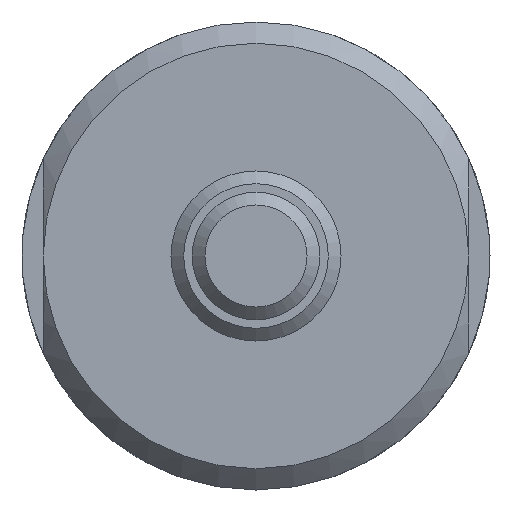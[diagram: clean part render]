
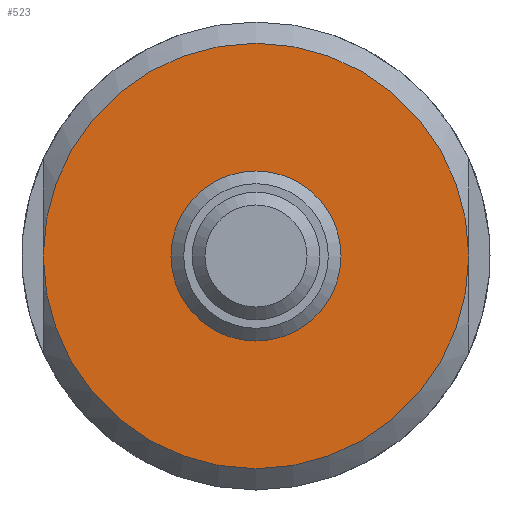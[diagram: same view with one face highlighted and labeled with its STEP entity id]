
A CAD part, left-side view. The second image highlights one B-rep face of the part: STEP entity #523.
In plain terms, the highlighted planar face has unit normal (-1, 0, 0).
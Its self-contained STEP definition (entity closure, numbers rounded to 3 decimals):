
#163=ORIENTED_EDGE('',*,*,#242,.T.);
#164=ORIENTED_EDGE('',*,*,#232,.F.);
#165=ORIENTED_EDGE('',*,*,#230,.F.);
#230=EDGE_CURVE('',#282,#280,#322,.T.);
#232=EDGE_CURVE('',#280,#282,#323,.T.);
#242=EDGE_CURVE('',#290,#290,#328,.T.);
#280=VERTEX_POINT('',#912);
#282=VERTEX_POINT('',#919);
#290=VERTEX_POINT('',#949);
#322=CIRCLE('',#613,5.);
#323=CIRCLE('',#615,5.);
#328=CIRCLE('',#622,2.);
#384=EDGE_LOOP('',(#163));
#385=EDGE_LOOP('',(#164,#165));
#454=FACE_BOUND('',#384,.T.);
#455=FACE_BOUND('',#385,.T.);
#488=PLANE('',#621);
#523=ADVANCED_FACE('',(#454,#455),#488,.F.);
#613=AXIS2_PLACEMENT_3D('',#920,#755,#756);
#615=AXIS2_PLACEMENT_3D('',#927,#759,#760);
#621=AXIS2_PLACEMENT_3D('',#947,#775,#776);
#622=AXIS2_PLACEMENT_3D('',#948,#777,#778);
#755=DIRECTION('',(1.,0.,0.));
#756=DIRECTION('',(0.,0.,-1.));
#759=DIRECTION('',(1.,0.,0.));
#760=DIRECTION('',(0.,0.,-1.));
#775=DIRECTION('',(1.,0.,0.));
#776=DIRECTION('',(0.,0.,-1.));
#777=DIRECTION('',(1.,0.,0.));
#778=DIRECTION('',(0.,0.,-1.));
#912=CARTESIAN_POINT('',(0.,-5.,0.));
#919=CARTESIAN_POINT('',(0.,5.,0.));
#920=CARTESIAN_POINT('',(0.,0.,0.));
#927=CARTESIAN_POINT('',(0.,0.,0.));
#947=CARTESIAN_POINT('',(0.,0.,0.));
#948=CARTESIAN_POINT('',(0.,0.,0.));
#949=CARTESIAN_POINT('',(0.,0.,-2.));
